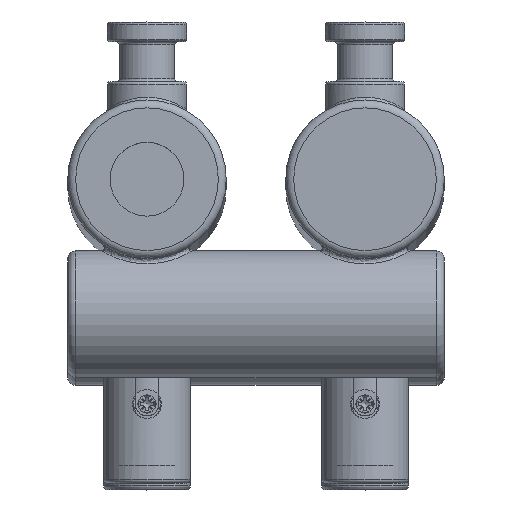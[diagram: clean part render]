
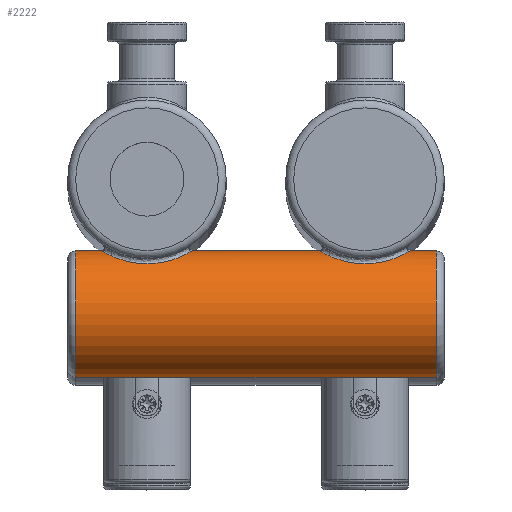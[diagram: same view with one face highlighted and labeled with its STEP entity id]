
A CAD part, top view. The second image highlights one B-rep face of the part: STEP entity #2222.
In plain terms, the highlighted cylindrical face has radius 16 mm (diameter 32 mm), a full revolution.
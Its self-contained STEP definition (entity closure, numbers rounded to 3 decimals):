
#175=FACE_BOUND('',#549,.T.);
#176=FACE_BOUND('',#550,.T.);
#199=LINE('',#4271,#279);
#279=VECTOR('',#2776,16.);
#359=CYLINDRICAL_SURFACE('',#2417,16.);
#397=FACE_OUTER_BOUND('',#548,.T.);
#548=EDGE_LOOP('',(#1560,#1561,#1562,#1563));
#549=EDGE_LOOP('',(#1564));
#550=EDGE_LOOP('',(#1565));
#714=B_SPLINE_CURVE_WITH_KNOTS('',3,(#4246,#4247,#4248,#4249,#4250,#4251,
#4252,#4253,#4254,#4255,#4256,#4257,#4258,#4259,#4260,#4261,#4262,#4263,
#4264,#4265,#4266),.UNSPECIFIED.,.T.,.F.,(4,1,1,1,1,1,1,1,1,1,1,1,1,1,1,
1,1,1,4),(0.,0.367,0.733,0.916,1.1,
1.466,1.711,1.955,2.199,2.444,
2.688,2.933,3.177,3.421,3.666,
3.91,4.399,4.765,5.132),
 .UNSPECIFIED.);
#715=B_SPLINE_CURVE_WITH_KNOTS('',3,(#4274,#4275,#4276,#4277,#4278,#4279,
#4280,#4281,#4282,#4283,#4284,#4285,#4286,#4287,#4288,#4289,#4290,#4291,
#4292,#4293,#4294),.UNSPECIFIED.,.T.,.F.,(4,1,1,1,1,1,1,1,1,1,1,1,1,1,1,
1,1,1,4),(0.,0.367,0.733,0.916,1.1,
1.466,1.711,1.955,2.199,2.444,
2.688,2.933,3.177,3.421,3.666,
3.91,4.399,4.765,5.132),
 .UNSPECIFIED.);
#764=CIRCLE('',#2418,16.);
#765=CIRCLE('',#2419,16.);
#960=VERTEX_POINT('',#4244);
#961=VERTEX_POINT('',#4268);
#962=VERTEX_POINT('',#4270);
#963=VERTEX_POINT('',#4273);
#1204=EDGE_CURVE('',#960,#960,#714,.T.);
#1205=EDGE_CURVE('',#961,#961,#764,.T.);
#1206=EDGE_CURVE('',#961,#962,#199,.T.);
#1207=EDGE_CURVE('',#962,#962,#765,.T.);
#1208=EDGE_CURVE('',#963,#963,#715,.T.);
#1560=ORIENTED_EDGE('',*,*,#1205,.F.);
#1561=ORIENTED_EDGE('',*,*,#1206,.T.);
#1562=ORIENTED_EDGE('',*,*,#1207,.F.);
#1563=ORIENTED_EDGE('',*,*,#1206,.F.);
#1564=ORIENTED_EDGE('',*,*,#1208,.F.);
#1565=ORIENTED_EDGE('',*,*,#1204,.F.);
#2222=ADVANCED_FACE('',(#397,#175,#176),#359,.T.);
#2417=AXIS2_PLACEMENT_3D('',#4267,#2772,#2773);
#2418=AXIS2_PLACEMENT_3D('',#4269,#2774,#2775);
#2419=AXIS2_PLACEMENT_3D('',#4272,#2777,#2778);
#2772=DIRECTION('center_axis',(-1.,0.,0.));
#2773=DIRECTION('ref_axis',(0.,0.,1.));
#2774=DIRECTION('center_axis',(-1.,0.,0.));
#2775=DIRECTION('ref_axis',(0.,0.,1.));
#2776=DIRECTION('',(1.,0.,0.));
#2777=DIRECTION('center_axis',(1.,0.,0.));
#2778=DIRECTION('ref_axis',(0.,0.,1.));
#4244=CARTESIAN_POINT('',(-55.,-21.257,1169.676));
#4246=CARTESIAN_POINT('Ctrl Pts',(-55.,-21.257,1169.676));
#4247=CARTESIAN_POINT('Ctrl Pts',(-53.333,-21.257,1169.676));
#4248=CARTESIAN_POINT('Ctrl Pts',(-49.992,-20.858,1169.186));
#4249=CARTESIAN_POINT('Ctrl Pts',(-46.526,-19.582,1167.138));
#4250=CARTESIAN_POINT('Ctrl Pts',(-44.675,-18.63,1164.615));
#4251=CARTESIAN_POINT('Ctrl Pts',(-43.539,-17.949,1161.659));
#4252=CARTESIAN_POINT('Ctrl Pts',(-43.538,-17.947,1158.067));
#4253=CARTESIAN_POINT('Ctrl Pts',(-45.013,-18.833,1154.662));
#4254=CARTESIAN_POINT('Ctrl Pts',(-47.203,-19.86,1152.415));
#4255=CARTESIAN_POINT('Ctrl Pts',(-50.072,-20.768,1150.978));
#4256=CARTESIAN_POINT('Ctrl Pts',(-53.318,-21.278,1150.296));
#4257=CARTESIAN_POINT('Ctrl Pts',(-56.682,-21.279,1150.296));
#4258=CARTESIAN_POINT('Ctrl Pts',(-59.929,-20.768,1150.978));
#4259=CARTESIAN_POINT('Ctrl Pts',(-62.797,-19.862,1152.415));
#4260=CARTESIAN_POINT('Ctrl Pts',(-64.989,-18.829,1154.664));
#4261=CARTESIAN_POINT('Ctrl Pts',(-66.247,-18.084,1157.578));
#4262=CARTESIAN_POINT('Ctrl Pts',(-66.602,-17.835,1161.907));
#4263=CARTESIAN_POINT('Ctrl Pts',(-64.645,-19.134,1166.468));
#4264=CARTESIAN_POINT('Ctrl Pts',(-59.999,-20.872,1169.179));
#4265=CARTESIAN_POINT('Ctrl Pts',(-56.667,-21.257,1169.676));
#4266=CARTESIAN_POINT('Ctrl Pts',(-55.,-21.257,1169.676));
#4267=CARTESIAN_POINT('Origin',(20.,-34.,1160.));
#4268=CARTESIAN_POINT('',(-73.,-34.,1144.));
#4269=CARTESIAN_POINT('Origin',(-73.,-34.,1160.));
#4270=CARTESIAN_POINT('',(18.,-34.,1144.));
#4271=CARTESIAN_POINT('',(20.,-34.,1144.));
#4272=CARTESIAN_POINT('Origin',(18.,-34.,1160.));
#4273=CARTESIAN_POINT('',(0.,-21.257,1169.676));
#4274=CARTESIAN_POINT('Ctrl Pts',(0.,-21.257,
1169.676));
#4275=CARTESIAN_POINT('Ctrl Pts',(1.667,-21.257,1169.676));
#4276=CARTESIAN_POINT('Ctrl Pts',(5.008,-20.858,1169.186));
#4277=CARTESIAN_POINT('Ctrl Pts',(8.474,-19.582,1167.138));
#4278=CARTESIAN_POINT('Ctrl Pts',(10.325,-18.63,1164.615));
#4279=CARTESIAN_POINT('Ctrl Pts',(11.461,-17.949,1161.659));
#4280=CARTESIAN_POINT('Ctrl Pts',(11.462,-17.947,1158.066));
#4281=CARTESIAN_POINT('Ctrl Pts',(9.987,-18.833,1154.662));
#4282=CARTESIAN_POINT('Ctrl Pts',(7.797,-19.86,1152.415));
#4283=CARTESIAN_POINT('Ctrl Pts',(4.928,-20.768,1150.978));
#4284=CARTESIAN_POINT('Ctrl Pts',(1.682,-21.278,1150.296));
#4285=CARTESIAN_POINT('Ctrl Pts',(-1.682,-21.279,1150.296));
#4286=CARTESIAN_POINT('Ctrl Pts',(-4.929,-20.768,1150.978));
#4287=CARTESIAN_POINT('Ctrl Pts',(-7.797,-19.862,1152.415));
#4288=CARTESIAN_POINT('Ctrl Pts',(-9.989,-18.829,1154.664));
#4289=CARTESIAN_POINT('Ctrl Pts',(-11.247,-18.084,1157.578));
#4290=CARTESIAN_POINT('Ctrl Pts',(-11.602,-17.835,1161.907));
#4291=CARTESIAN_POINT('Ctrl Pts',(-9.645,-19.134,1166.468));
#4292=CARTESIAN_POINT('Ctrl Pts',(-4.999,-20.872,1169.179));
#4293=CARTESIAN_POINT('Ctrl Pts',(-1.667,-21.257,1169.676));
#4294=CARTESIAN_POINT('Ctrl Pts',(0.,-21.257,
1169.676));
